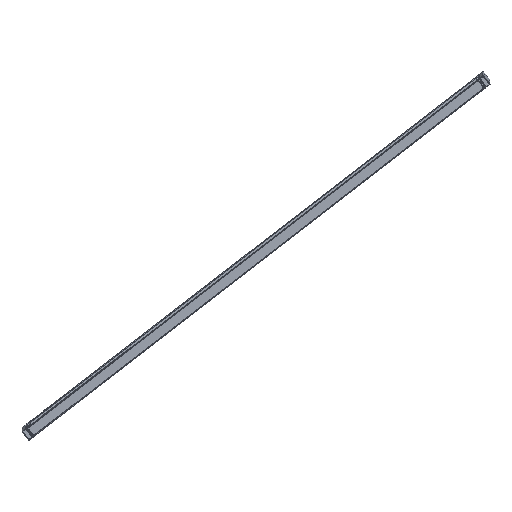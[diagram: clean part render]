
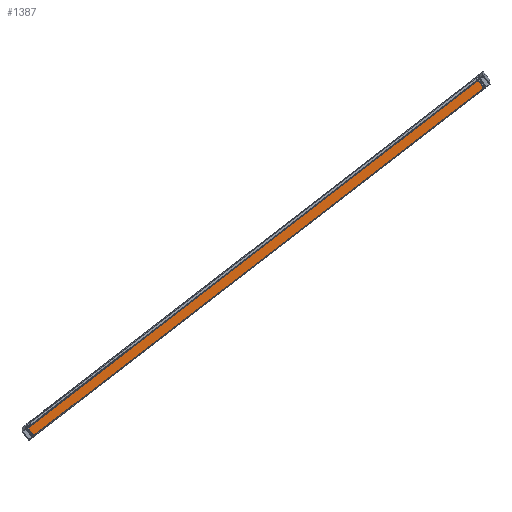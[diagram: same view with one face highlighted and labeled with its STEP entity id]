
A CAD part, left-side view. The second image highlights one B-rep face of the part: STEP entity #1387.
In plain terms, the highlighted planar face has unit normal (-1, -0.001, -0.012) as drawn and (0, 0, -1) by its records, which use the part's own axes.
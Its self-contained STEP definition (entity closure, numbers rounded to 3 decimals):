
#36 = CARTESIAN_POINT ( 'NONE',  ( -17., 879.5, 0. ) ) ;
#131 = CARTESIAN_POINT ( 'NONE',  ( -14.5, -9702., 0. ) ) ;
#617 = ORIENTED_EDGE ( 'NONE', *, *, #3738, .T. ) ;
#877 = DIRECTION ( 'NONE',  ( -1., 0., 0. ) ) ;
#951 = CARTESIAN_POINT ( 'NONE',  ( -14.5, 879.5, 0. ) ) ;
#992 = DIRECTION ( 'NONE',  ( 1., 0., 0. ) ) ;
#1320 = VECTOR ( 'NONE', #5136, 1000. ) ;
#1387 = ADVANCED_FACE ( 'NONE', ( #6202 ), #3857, .F. ) ;
#1529 = VERTEX_POINT ( 'NONE', #6931 ) ;
#1813 = LINE ( 'NONE', #6657, #5637 ) ;
#1924 = ORIENTED_EDGE ( 'NONE', *, *, #7852, .T. ) ;
#2186 = LINE ( 'NONE', #36, #7524 ) ;
#2947 = DIRECTION ( 'NONE',  ( 1., 0., 0. ) ) ;
#3043 = CARTESIAN_POINT ( 'NONE',  ( -17., -882., 0. ) ) ;
#3495 = ORIENTED_EDGE ( 'NONE', *, *, #5542, .T. ) ;
#3738 = EDGE_CURVE ( 'NONE', #6889, #1529, #2186, .T. ) ;
#3857 = PLANE ( 'NONE',  #4073 ) ;
#4073 = AXIS2_PLACEMENT_3D ( 'NONE', #3043, #5306, #992 ) ;
#4572 = CARTESIAN_POINT ( 'NONE',  ( 14.5, 882., 0. ) ) ;
#5136 = DIRECTION ( 'NONE',  ( 0., 1., 0. ) ) ;
#5274 = LINE ( 'NONE', #4572, #9143 ) ;
#5296 = DIRECTION ( 'NONE',  ( 0., -1., 0. ) ) ;
#5306 = DIRECTION ( 'NONE',  ( 0., 0., 1. ) ) ;
#5542 = EDGE_CURVE ( 'NONE', #5563, #6889, #5602, .T. ) ;
#5563 = VERTEX_POINT ( 'NONE', #8804 ) ;
#5602 = LINE ( 'NONE', #131, #1320 ) ;
#5637 = VECTOR ( 'NONE', #877, 1000. ) ;
#5844 = CARTESIAN_POINT ( 'NONE',  ( 14.5, -879.5, 0. ) ) ;
#6183 = EDGE_LOOP ( 'NONE', ( #7980, #1924, #3495, #617 ) ) ;
#6202 = FACE_OUTER_BOUND ( 'NONE', #6183, .T. ) ;
#6533 = VERTEX_POINT ( 'NONE', #5844 ) ;
#6657 = CARTESIAN_POINT ( 'NONE',  ( 17., -879.5, 0. ) ) ;
#6889 = VERTEX_POINT ( 'NONE', #951 ) ;
#6931 = CARTESIAN_POINT ( 'NONE',  ( 14.5, 879.5, 0. ) ) ;
#7524 = VECTOR ( 'NONE', #2947, 1000. ) ;
#7852 = EDGE_CURVE ( 'NONE', #6533, #5563, #1813, .T. ) ;
#7980 = ORIENTED_EDGE ( 'NONE', *, *, #9243, .T. ) ;
#8804 = CARTESIAN_POINT ( 'NONE',  ( -14.5, -879.5, 0. ) ) ;
#9143 = VECTOR ( 'NONE', #5296, 1000. ) ;
#9243 = EDGE_CURVE ( 'NONE', #1529, #6533, #5274, .T. ) ;
